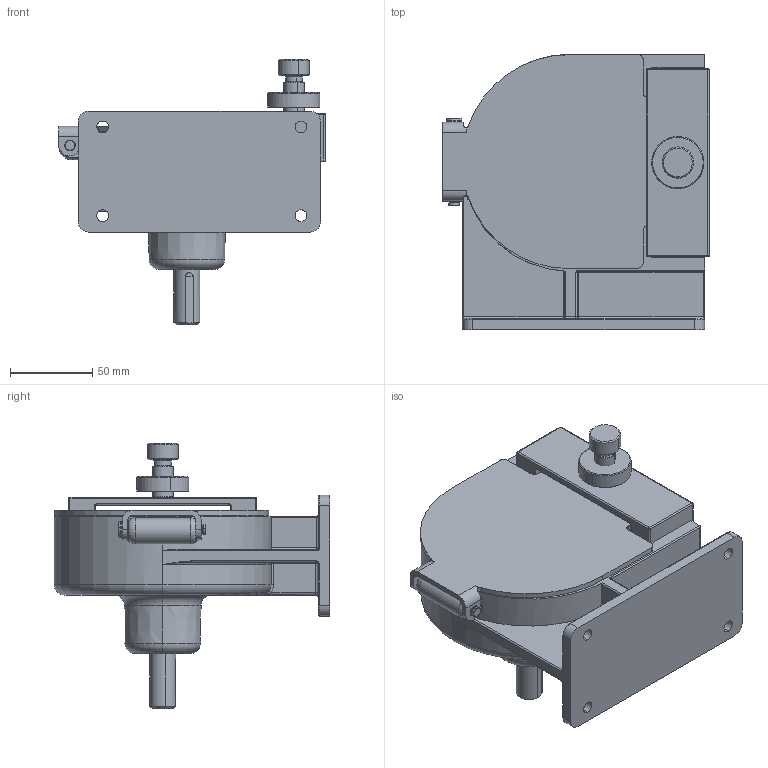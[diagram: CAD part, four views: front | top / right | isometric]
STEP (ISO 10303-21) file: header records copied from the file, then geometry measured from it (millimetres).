
FILE_DESCRIPTION (( 'STEP AP203' ), '1' );
FILE_NAME ('610 PHO.STEP', '2012-03-23T19:00:28', ( '' ), ( '' ), 'SwSTEP 2.0', 'SolidWorks 2012', '' );
FILE_SCHEMA (( 'CONFIG_CONTROL_DESIGN' ));
Length unit declared in the file: millimetre
Products named in the file (1): 610 PHO
Bounding box: 161.98 x 167.64 x 161.68 mm (x, y, z)
Surface area: 155969.6 mm2 (no closed solid volume)
Topology: 0 solids, 11 shells, 351 faces, 1112 edges, 748 vertices
Faces by surface type: cylinder 173, plane 93, torus 54, cone 14, bspline 11, sphere 6
Entity records: 13947 total; most frequent: CARTESIAN_POINT 3987, DIRECTION 2238, ORIENTED_EDGE 1883, EDGE_CURVE 1100, AXIS2_PLACEMENT_3D 880, VERTEX_POINT 748, CIRCLE 539, VECTOR 478
